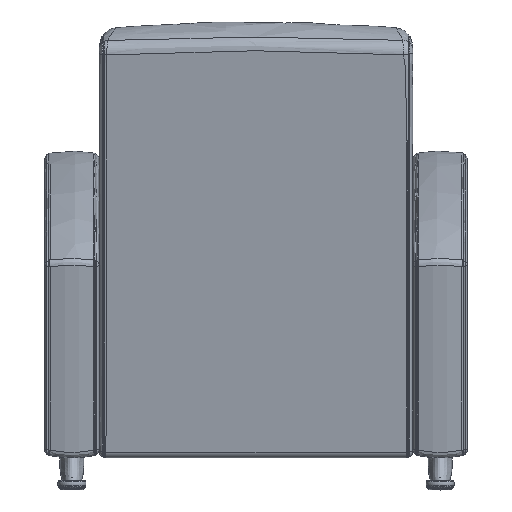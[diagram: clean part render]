
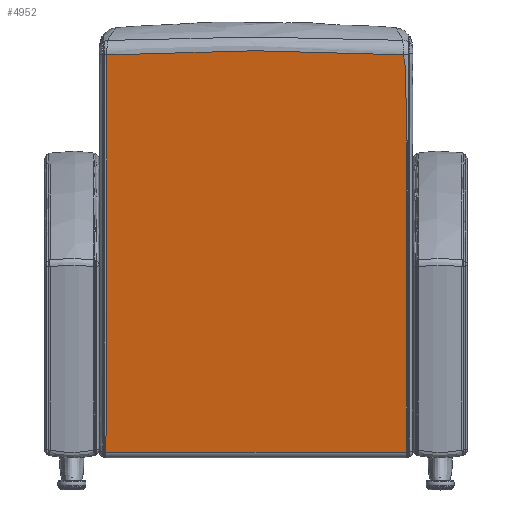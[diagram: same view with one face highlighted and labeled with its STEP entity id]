
A CAD part, top view. The second image highlights one B-rep face of the part: STEP entity #4952.
In plain terms, the highlighted planar face has unit normal (0, -0.158, 0.987).
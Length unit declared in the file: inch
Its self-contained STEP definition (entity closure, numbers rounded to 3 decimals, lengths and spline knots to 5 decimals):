
#144=PLANE('',#5505);
#443=B_SPLINE_CURVE_WITH_KNOTS('',3,(#24338,#24339,#24340,#24341,#24342,
#24343,#24344,#24345,#24346,#24347,#24348,#24349,#24350,#24351,#24352,#24353),
 .UNSPECIFIED.,.F.,.F.,(4,1,1,1,1,1,1,1,1,1,1,1,1,4),(-164.25403,
-156.22766,-153.5522,-121.44671,-116.0958,
-110.74488,-103.61033,-100.04305,-97.36759,
-94.69214,-93.35441,-92.01668,-90.67895,
-89.34122),.UNSPECIFIED.);
#452=B_SPLINE_CURVE_WITH_KNOTS('',3,(#24887,#24888,#24889,#24890,#24891,
#24892,#24893,#24894,#24895,#24896,#24897,#24898,#24899,#24900,#24901),
 .UNSPECIFIED.,.F.,.F.,(4,1,1,1,1,1,1,1,1,1,1,1,4),(88.70573,89.37526,
90.04479,91.38385,92.72291,94.06197,95.40103,
96.7401,99.41822,110.13071,120.84319,152.98066,
163.69314),.UNSPECIFIED.);
#453=B_SPLINE_CURVE_WITH_KNOTS('',3,(#24902,#24903,#24904,#24905,#24906,
#24907,#24908),.UNSPECIFIED.,.F.,.F.,(4,1,1,1,4),(1.28548,8.23881,
29.0988,35.9624,56.55321),.UNSPECIFIED.);
#774=LINE('',#24490,#850);
#850=VECTOR('',#6546,0.3937);
#1180=FACE_OUTER_BOUND('',#1552,.T.);
#1552=EDGE_LOOP('',(#4312,#4313,#4314,#4315));
#2272=VERTEX_POINT('',#23252);
#2294=VERTEX_POINT('',#24245);
#2296=VERTEX_POINT('',#24336);
#2302=VERTEX_POINT('',#24488);
#2967=EDGE_CURVE('',#2296,#2294,#443,.T.);
#2981=EDGE_CURVE('',#2302,#2296,#774,.T.);
#2987=EDGE_CURVE('',#2272,#2302,#452,.T.);
#2988=EDGE_CURVE('',#2294,#2272,#453,.T.);
#4312=ORIENTED_EDGE('',*,*,#2981,.F.);
#4313=ORIENTED_EDGE('',*,*,#2987,.F.);
#4314=ORIENTED_EDGE('',*,*,#2988,.F.);
#4315=ORIENTED_EDGE('',*,*,#2967,.F.);
#4952=ADVANCED_FACE('',(#1180),#144,.T.);
#5505=AXIS2_PLACEMENT_3D('',#24886,#6551,#6552);
#6546=DIRECTION('',(-1.,0.,0.));
#6551=DIRECTION('center_axis',(0.,-0.158,
0.987));
#6552=DIRECTION('ref_axis',(1.,0.,0.));
#23252=CARTESIAN_POINT('',(22.30345,29.31517,29.67043));
#24245=CARTESIAN_POINT('',(0.55542,29.30819,29.66931));
#24336=CARTESIAN_POINT('',(0.5,0.18975,25.01036));
#24338=CARTESIAN_POINT('Ctrl Pts',(0.5,0.18975,25.01036));
#24339=CARTESIAN_POINT('Ctrl Pts',(0.5,1.2301,25.17682));
#24340=CARTESIAN_POINT('Ctrl Pts',(0.5,2.61629,25.39861));
#24341=CARTESIAN_POINT('Ctrl Pts',(0.5,8.16408,26.28625));
#24342=CARTESIAN_POINT('Ctrl Pts',(0.5,13.36378,27.11821));
#24343=CARTESIAN_POINT('Ctrl Pts',(0.5,18.91179,28.00589));
#24344=CARTESIAN_POINT('Ctrl Pts',(0.49999,21.22172,28.37548));
#24345=CARTESIAN_POINT('Ctrl Pts',(0.50002,23.30468,28.70875));
#24346=CARTESIAN_POINT('Ctrl Pts',(0.49997,25.03544,28.98567));
#24347=CARTESIAN_POINT('Ctrl Pts',(0.50009,26.19011,29.17042));
#24348=CARTESIAN_POINT('Ctrl Pts',(0.49982,27.05986,29.30958));
#24349=CARTESIAN_POINT('Ctrl Pts',(0.50023,27.7531,29.4205));
#24350=CARTESIAN_POINT('Ctrl Pts',(0.49943,28.27152,29.50345));
#24351=CARTESIAN_POINT('Ctrl Pts',(0.50366,28.79291,29.58687));
#24352=CARTESIAN_POINT('Ctrl Pts',(0.53258,29.13774,29.64204));
#24353=CARTESIAN_POINT('Ctrl Pts',(0.55542,29.30819,29.66931));
#24488=CARTESIAN_POINT('',(22.5,0.18975,25.01036));
#24490=CARTESIAN_POINT('',(0.,0.18975,25.01036));
#24886=CARTESIAN_POINT('Origin',(0.,29.99264,29.77882));
#24887=CARTESIAN_POINT('Ctrl Pts',(22.30345,29.31517,29.67043));
#24888=CARTESIAN_POINT('Ctrl Pts',(22.32126,29.23205,29.65713));
#24889=CARTESIAN_POINT('Ctrl Pts',(22.35511,29.06477,29.63036));
#24890=CARTESIAN_POINT('Ctrl Pts',(22.41391,28.72837,29.57654));
#24891=CARTESIAN_POINT('Ctrl Pts',(22.46752,28.29905,29.50785));
#24892=CARTESIAN_POINT('Ctrl Pts',(22.49667,27.78066,29.42491));
#24893=CARTESIAN_POINT('Ctrl Pts',(22.50042,27.25988,29.34158));
#24894=CARTESIAN_POINT('Ctrl Pts',(22.49987,26.73851,29.25816));
#24895=CARTESIAN_POINT('Ctrl Pts',(22.50007,26.04307,29.14689));
#24896=CARTESIAN_POINT('Ctrl Pts',(22.49994,24.13651,28.84184));
#24897=CARTESIAN_POINT('Ctrl Pts',(22.50002,21.01194,28.34191));
#24898=CARTESIAN_POINT('Ctrl Pts',(22.49998,14.07189,27.2315));
#24899=CARTESIAN_POINT('Ctrl Pts',(22.50001,7.12995,26.12079));
#24900=CARTESIAN_POINT('Ctrl Pts',(22.5,1.57827,25.23252));
#24901=CARTESIAN_POINT('Ctrl Pts',(22.5,0.18975,25.01036));
#24902=CARTESIAN_POINT('Ctrl Pts',(0.55542,29.30819,29.66931));
#24903=CARTESIAN_POINT('Ctrl Pts',(1.46682,29.35365,29.67659));
#24904=CARTESIAN_POINT('Ctrl Pts',(5.11281,29.51797,29.70288));
#24905=CARTESIAN_POINT('Ctrl Pts',(9.6631,29.63666,29.72187));
#24906=CARTESIAN_POINT('Ctrl Pts',(16.00374,29.58196,29.71312));
#24907=CARTESIAN_POINT('Ctrl Pts',(19.60464,29.44692,29.69151));
#24908=CARTESIAN_POINT('Ctrl Pts',(22.30345,29.31517,29.67043));
